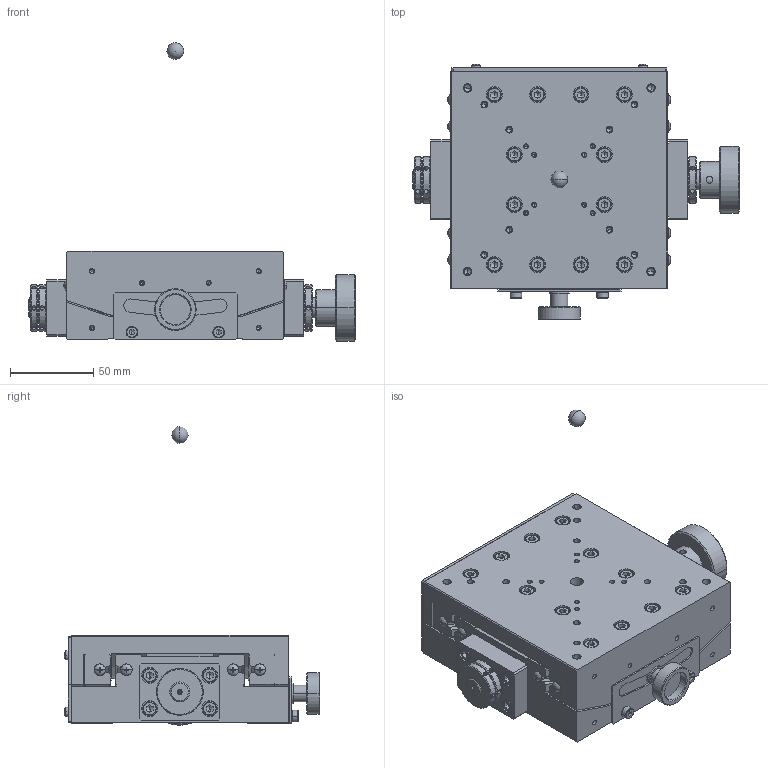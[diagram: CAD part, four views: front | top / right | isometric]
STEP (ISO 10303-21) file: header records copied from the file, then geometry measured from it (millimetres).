
FILE_DESCRIPTION (( 'STEP AP203' ), '1' );
FILE_NAME ('SH13A-RT-R.STEP', '2010-05-28T00:24:42', ( ' ' ), ( ' ' ), 'SwSTEP 2.0', 'SolidWorks 2009', '' );
FILE_SCHEMA (( 'CONFIG_CONTROL_DESIGN' ));
Length unit declared in the file: millimetre
Products named in the file (4): SH13A-RT-R.sldasm-Part-1; 000190-1011(3D)-5; 000190-1021(3D)-3; SH13A-RT-R
Assembly tree (3 placements, depth 2):
  SH13A-RT-R
    000190-1011(3D)-5
    000190-1021(3D)-3
    SH13A-RT-R.sldasm-Part-1
Bounding box: 196 x 153.39 x 179 mm (x, y, z)
Volume: 854391.9 mm3; surface area: 188006.9 mm2
Topology: 3 solids, 76 shells, 2327 faces, 5202 edges, 3009 vertices
Faces by surface type: plane 870, cylinder 799, cone 612, sphere 26, torus 20
Entity records: 67470 total; most frequent: CARTESIAN_POINT 15355, DIRECTION 11611, ORIENTED_EDGE 9962, EDGE_CURVE 4981, AXIS2_PLACEMENT_3D 4533, VERTEX_POINT 3006, EDGE_LOOP 2645, LINE 2545
